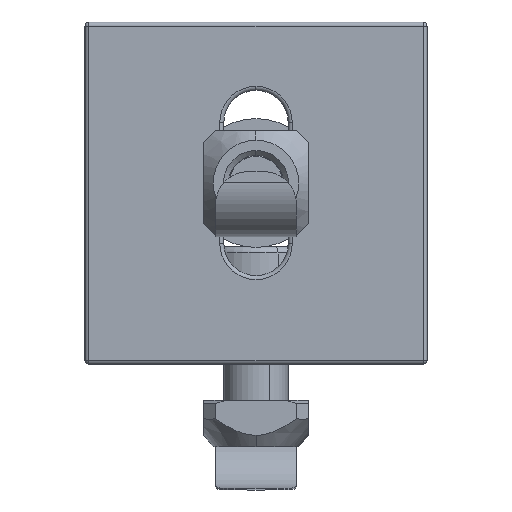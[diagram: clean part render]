
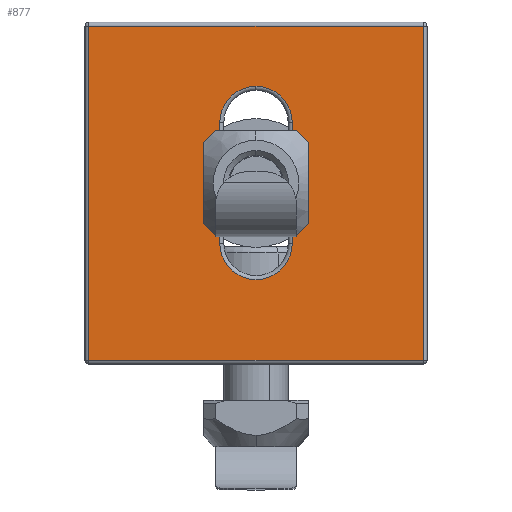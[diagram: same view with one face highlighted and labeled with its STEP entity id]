
A CAD part, front view. The second image highlights one B-rep face of the part: STEP entity #877.
In plain terms, the highlighted planar face has unit normal (0, -1, 0).
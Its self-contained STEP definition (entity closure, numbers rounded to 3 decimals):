
#73 = EDGE_CURVE ( 'NONE', #7786, #3943, #7754, .T. ) ;
#115 = ORIENTED_EDGE ( 'NONE', *, *, #4991, .T. ) ;
#329 = ORIENTED_EDGE ( 'NONE', *, *, #2908, .T. ) ;
#370 = EDGE_CURVE ( 'NONE', #3053, #6965, #8296, .T. ) ;
#520 = ORIENTED_EDGE ( 'NONE', *, *, #2481, .T. ) ;
#575 = PLANE ( 'NONE',  #6252 ) ;
#590 = CIRCLE ( 'NONE', #2025, 4.5 ) ;
#600 = CARTESIAN_POINT ( 'NONE',  ( 18.306, -19.464, -20.726 ) ) ;
#704 = CARTESIAN_POINT ( 'NONE',  ( -23.694, -19.464, 0.024 ) ) ;
#877 = ADVANCED_FACE ( 'NONE', ( #7446, #1254 ), #575, .F. ) ;
#917 = EDGE_CURVE ( 'NONE', #7339, #3053, #1425, .T. ) ;
#1101 = LINE ( 'NONE', #5406, #2142 ) ;
#1167 = VERTEX_POINT ( 'NONE', #6035 ) ;
#1254 = FACE_BOUND ( 'NONE', #1852, .T. ) ;
#1270 = CARTESIAN_POINT ( 'NONE',  ( -2.444, -19.464, 8.774 ) ) ;
#1374 = EDGE_LOOP ( 'NONE', ( #3989, #6626, #2115, #329 ) ) ;
#1383 = DIRECTION ( 'NONE',  ( 0., 0., 1. ) ) ;
#1425 = LINE ( 'NONE', #6986, #6111 ) ;
#1560 = CARTESIAN_POINT ( 'NONE',  ( 2.056, -19.464, 0.024 ) ) ;
#1567 = CARTESIAN_POINT ( 'NONE',  ( -2.444, -19.464, 8.774 ) ) ;
#1852 = EDGE_LOOP ( 'NONE', ( #8278, #115, #520, #1899, #7768 ) ) ;
#1899 = ORIENTED_EDGE ( 'NONE', *, *, #4622, .T. ) ;
#2001 = CARTESIAN_POINT ( 'NONE',  ( -2.444, -19.464, 13.274 ) ) ;
#2004 = LINE ( 'NONE', #6211, #6920 ) ;
#2012 = DIRECTION ( 'NONE',  ( 0., 1., 0. ) ) ;
#2025 = AXIS2_PLACEMENT_3D ( 'NONE', #3123, #6266, #2104 ) ;
#2104 = DIRECTION ( 'NONE',  ( 0., 0., 1. ) ) ;
#2115 = ORIENTED_EDGE ( 'NONE', *, *, #7800, .T. ) ;
#2142 = VECTOR ( 'NONE', #8012, 1000. ) ;
#2199 = LINE ( 'NONE', #6359, #8553 ) ;
#2327 = DIRECTION ( 'NONE',  ( 0., 0., 1. ) ) ;
#2361 = EDGE_CURVE ( 'NONE', #2997, #7786, #8226, .T. ) ;
#2481 = EDGE_CURVE ( 'NONE', #6823, #5017, #2004, .T. ) ;
#2818 = CARTESIAN_POINT ( 'NONE',  ( 2.056, -19.464, -6.226 ) ) ;
#2908 = EDGE_CURVE ( 'NONE', #1167, #7339, #1101, .T. ) ;
#2928 = CARTESIAN_POINT ( 'NONE',  ( 2.056, -19.464, 8.774 ) ) ;
#2997 = VERTEX_POINT ( 'NONE', #2001 ) ;
#3053 = VERTEX_POINT ( 'NONE', #8602 ) ;
#3123 = CARTESIAN_POINT ( 'NONE',  ( -2.444, -19.464, -6.226 ) ) ;
#3943 = VERTEX_POINT ( 'NONE', #2818 ) ;
#3980 = VECTOR ( 'NONE', #4310, 1000. ) ;
#3989 = ORIENTED_EDGE ( 'NONE', *, *, #917, .T. ) ;
#4310 = DIRECTION ( 'NONE',  ( 0., 0., -1. ) ) ;
#4312 = DIRECTION ( 'NONE',  ( 0., 0., -1. ) ) ;
#4622 = EDGE_CURVE ( 'NONE', #5017, #2997, #4791, .T. ) ;
#4710 = CARTESIAN_POINT ( 'NONE',  ( -6.944, -19.464, 8.774 ) ) ;
#4730 = CARTESIAN_POINT ( 'NONE',  ( -23.194, -19.464, 20.774 ) ) ;
#4791 = CIRCLE ( 'NONE', #7243, 4.5 ) ;
#4822 = DIRECTION ( 'NONE',  ( -1., 0., 0. ) ) ;
#4991 = EDGE_CURVE ( 'NONE', #3943, #6823, #590, .T. ) ;
#5017 = VERTEX_POINT ( 'NONE', #4710 ) ;
#5187 = AXIS2_PLACEMENT_3D ( 'NONE', #1270, #8134, #6825 ) ;
#5406 = CARTESIAN_POINT ( 'NONE',  ( -23.694, -19.464, -20.726 ) ) ;
#5499 = CARTESIAN_POINT ( 'NONE',  ( -23.694, -19.464, 20.774 ) ) ;
#6035 = CARTESIAN_POINT ( 'NONE',  ( -23.194, -19.464, -20.726 ) ) ;
#6111 = VECTOR ( 'NONE', #1383, 1000. ) ;
#6211 = CARTESIAN_POINT ( 'NONE',  ( -6.944, -19.464, 0.024 ) ) ;
#6252 = AXIS2_PLACEMENT_3D ( 'NONE', #704, #2012, #8383 ) ;
#6266 = DIRECTION ( 'NONE',  ( 0., 1., 0. ) ) ;
#6359 = CARTESIAN_POINT ( 'NONE',  ( -23.194, -19.464, -21.226 ) ) ;
#6626 = ORIENTED_EDGE ( 'NONE', *, *, #370, .T. ) ;
#6823 = VERTEX_POINT ( 'NONE', #8086 ) ;
#6825 = DIRECTION ( 'NONE',  ( 0., 0., 1. ) ) ;
#6920 = VECTOR ( 'NONE', #7648, 1000. ) ;
#6965 = VERTEX_POINT ( 'NONE', #4730 ) ;
#6986 = CARTESIAN_POINT ( 'NONE',  ( 18.306, -19.464, 0.024 ) ) ;
#7135 = DIRECTION ( 'NONE',  ( 0., 1., 0. ) ) ;
#7243 = AXIS2_PLACEMENT_3D ( 'NONE', #1567, #7135, #2327 ) ;
#7339 = VERTEX_POINT ( 'NONE', #600 ) ;
#7446 = FACE_OUTER_BOUND ( 'NONE', #1374, .T. ) ;
#7648 = DIRECTION ( 'NONE',  ( 0., 0., 1. ) ) ;
#7754 = LINE ( 'NONE', #1560, #3980 ) ;
#7768 = ORIENTED_EDGE ( 'NONE', *, *, #2361, .T. ) ;
#7786 = VERTEX_POINT ( 'NONE', #2928 ) ;
#7800 = EDGE_CURVE ( 'NONE', #6965, #1167, #2199, .T. ) ;
#8012 = DIRECTION ( 'NONE',  ( 1., 0., 0. ) ) ;
#8086 = CARTESIAN_POINT ( 'NONE',  ( -6.944, -19.464, -6.226 ) ) ;
#8134 = DIRECTION ( 'NONE',  ( 0., 1., 0. ) ) ;
#8226 = CIRCLE ( 'NONE', #5187, 4.5 ) ;
#8278 = ORIENTED_EDGE ( 'NONE', *, *, #73, .T. ) ;
#8296 = LINE ( 'NONE', #5499, #8745 ) ;
#8383 = DIRECTION ( 'NONE',  ( 0., 0., 1. ) ) ;
#8553 = VECTOR ( 'NONE', #4312, 1000. ) ;
#8602 = CARTESIAN_POINT ( 'NONE',  ( 18.306, -19.464, 20.774 ) ) ;
#8745 = VECTOR ( 'NONE', #4822, 1000. ) ;
